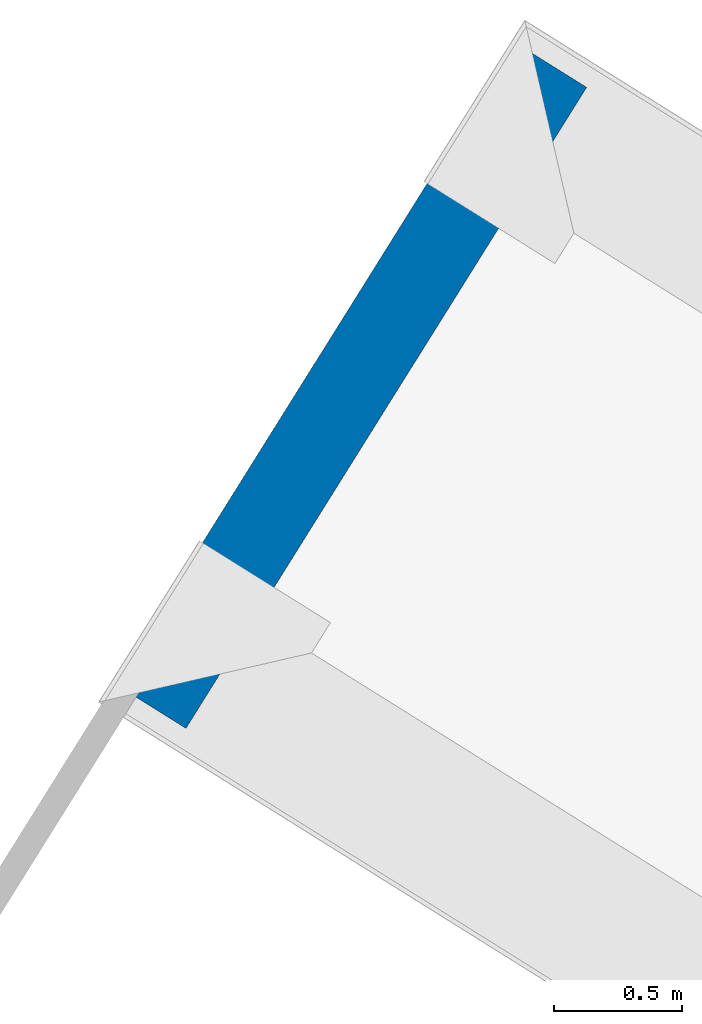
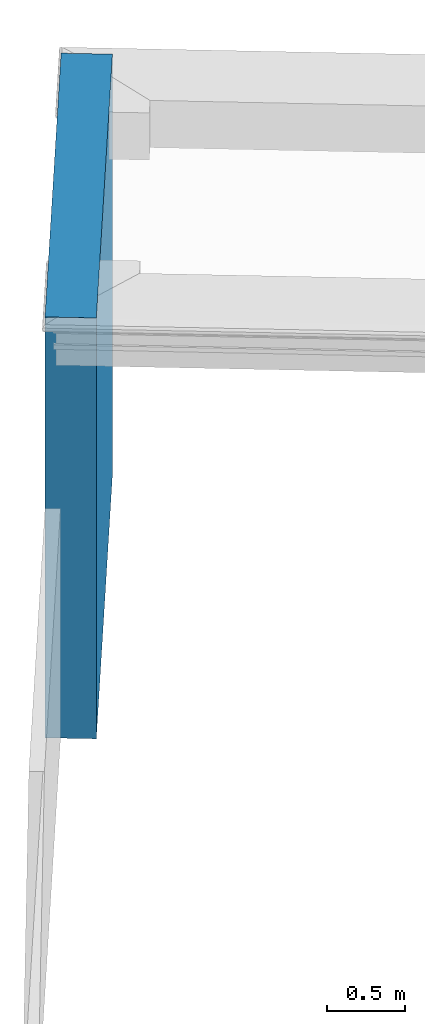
# One storey, part 4 of 5: 1 wall.
"""IFC4 building model written with IfcOpenShell, lengths in metres."""

import ifcopenshell
import ifcopenshell.guid

model = None  # the IFC model being written
_history = None  # IfcOwnerHistory: only IFC2X3 demands one
_inside = {}  # id of a spatial element -> (the spatial element, [elements in it])
_under = {}  # id of a project, library or spatial element -> (it, [spatial elements below it])
_declared = {}  # id of a project -> (the project, [libraries it declares])
_typed = {}  # id of a type object -> (the type object, [elements of that type])
_made_of = {}  # id of a material, layer set ... -> (it, [elements and type objects made of it])


def new_model(schema):
    """Start an empty IFC model of exactly this schema.

    Asked for "IFC4X3", IfcOpenShell would pick the latest addendum, in which some entities
    have other attributes; the version numbers below select the first issue.
    IFC2X3 requires an IfcOwnerHistory on every rooted entity: one is made here for all.
    """
    global model, _history
    if schema == "IFC4X3":
        model = ifcopenshell.file(schema_version=(4, 3, 0, 0))
    else:
        model = ifcopenshell.file(schema=schema)
    _inside.clear()
    _under.clear()
    _declared.clear()
    _typed.clear()
    _made_of.clear()
    _history = None
    if model.schema == "IFC2X3":
        org = make("IfcOrganization", Name="unknown")
        user = make(
            "IfcPersonAndOrganization",
            ThePerson=make("IfcPerson", FamilyName="unknown"),
            TheOrganization=org,
        )
        app = make(
            "IfcApplication",
            ApplicationDeveloper=org,
            Version="unknown",
            ApplicationFullName="unknown",
            ApplicationIdentifier="unknown",
        )
        _history = make(
            "IfcOwnerHistory",
            OwningUser=user,
            OwningApplication=app,
            ChangeAction="ADDED",
            CreationDate=0,
        )
    return model


def make(cls, **values):
    """One entity of the class cls with the attributes given. An attribute that is None is left unset."""
    return model.create_entity(
        cls, **{name: value for name, value in values.items() if value is not None}
    )


def rooted(cls, **values):
    """An entity with a GlobalId (a new one), such as an element, a storey or a relation."""
    return make(cls, GlobalId=ifcopenshell.guid.new(), OwnerHistory=_history, **values)


def si_unit(unit_type, name, prefix=None):
    """IfcSIUnit, for example si_unit("LENGTHUNIT", "METRE", prefix="MILLI")."""
    return make("IfcSIUnit", UnitType=unit_type, Prefix=prefix, Name=name)


def assignment(units):
    """IfcUnitAssignment: the units of a project."""
    return None if units is None else make("IfcUnitAssignment", Units=units)


def point(xyz):
    """IfcCartesianPoint."""
    return None if xyz is None else make("IfcCartesianPoint", Coordinates=xyz)


def direction(xyz):
    """IfcDirection."""
    return None if xyz is None else make("IfcDirection", DirectionRatios=xyz)


def frame(location, z_axis=None, x_axis=None):
    """IfcAxis2Placement3D, a coordinate frame: its origin and axes. An axis left out is left unset."""
    return make(
        "IfcAxis2Placement3D",
        Location=point(location),
        Axis=direction(z_axis),
        RefDirection=direction(x_axis),
    )


def origin_with_axes():
    """The frame at (0, 0, 0) with the z axis (0, 0, 1) and the x axis (1, 0, 0) written out."""
    return frame((0.0, 0.0, 0.0), z_axis=(0.0, 0.0, 1.0), x_axis=(1.0, 0.0, 0.0))


def place(relative_to, where):
    """IfcLocalPlacement: puts the frame where relative to a parent placement (None: the world)."""
    return make(
        "IfcLocalPlacement", PlacementRelTo=relative_to, RelativePlacement=where
    )


def context(
    kind, dimensions, precision=None, world=None, true_north=None, identifier=None
):
    """IfcGeometricRepresentationContext, for example the 3D "Model" context."""
    return make(
        "IfcGeometricRepresentationContext",
        ContextIdentifier=identifier,
        ContextType=kind,
        CoordinateSpaceDimension=dimensions,
        Precision=precision,
        WorldCoordinateSystem=world,
        TrueNorth=true_north,
    )


def subcontext(parent, identifier, kind, view, scale=None):
    """IfcGeometricRepresentationSubContext, for example "Body" below "Model"."""
    return make(
        "IfcGeometricRepresentationSubContext",
        ContextIdentifier=identifier,
        ContextType=kind,
        ParentContext=parent,
        TargetScale=scale,
        TargetView=view,
    )


def project(units=None, contexts=None):
    """IfcProject with its units and contexts."""
    return rooted(
        "IfcProject",
        Name="project",
        RepresentationContexts=contexts,
        UnitsInContext=assignment(units),
    )


def spatial(cls, under=None, at=None, **own):
    """A site, building, storey or space (cls), placed at a placement, below another one or the project."""
    s = rooted(cls, ObjectPlacement=at, **own)
    if under is not None:
        _under.setdefault(under.id(), (under, []))[1].append(s)
    return s


def polyline(points):
    """IfcPolyline through the points."""
    return make("IfcPolyline", Points=[point(p) for p in points])


def outline(outer, holes=None, kind="AREA"):
    """IfcArbitraryClosedProfileDef: a profile drawn as a closed curve; with holes, ...WithVoids."""
    if holes is None:
        return make("IfcArbitraryClosedProfileDef", ProfileType=kind, OuterCurve=outer)
    return make(
        "IfcArbitraryProfileDefWithVoids",
        ProfileType=kind,
        OuterCurve=outer,
        InnerCurves=holes,
    )


def extrude(swept, where, along, depth):
    """IfcExtrudedAreaSolid: the profile swept, set in the frame where, extruded along a direction by depth."""
    return make(
        "IfcExtrudedAreaSolid",
        SweptArea=swept,
        Position=where,
        ExtrudedDirection=direction(along),
        Depth=depth,
    )


def shape(context_of_items, identifier, shape_type, items):
    """IfcShapeRepresentation: the items that make up one representation, for example the "Body"."""
    return make(
        "IfcShapeRepresentation",
        ContextOfItems=context_of_items,
        RepresentationIdentifier=identifier,
        RepresentationType=shape_type,
        Items=items,
    )


def material(Name=None, Category=None):
    """IfcMaterial."""
    return make("IfcMaterial", Name=Name, Category=Category)


def layer(
    of_material, thickness, ventilated=None, Name=None, Category=None, Priority=None
):
    """IfcMaterialLayer: one layer of a wall or slab, of a material (None: an air gap)."""
    return make(
        "IfcMaterialLayer",
        Material=of_material,
        LayerThickness=thickness,
        IsVentilated=ventilated,
        Name=Name,
        Category=Category,
        Priority=Priority,
    )


def layer_set(layers, Name=None):
    """IfcMaterialLayerSet."""
    return make("IfcMaterialLayerSet", MaterialLayers=layers, LayerSetName=Name)


def layer_usage(for_layer_set, set_direction, sense, offset, extent=None):
    """IfcMaterialLayerSetUsage: how a layer set lies in its element."""
    return make(
        "IfcMaterialLayerSetUsage",
        ForLayerSet=for_layer_set,
        LayerSetDirection=set_direction,
        DirectionSense=sense,
        OffsetFromReferenceLine=offset,
        ReferenceExtent=extent,
    )


def made_of(thing, what):
    """Note that an element or type object is made of a material, layer set ...; save() writes the relation."""
    if what is not None:
        _made_of.setdefault(what.id(), (what, []))[1].append(thing)
    return thing


def type_object(cls, material=None, **own):
    """A type object (cls), such as IfcWallType, which elements share."""
    return made_of(rooted(cls, **own), material)


def element(
    cls,
    number,
    at=None,
    inside=None,
    cuts=None,
    type_object=None,
    material=None,
    context=None,
    identifier="Body",
    shape_type=None,
    held_by="IfcProductDefinitionShape",
    body=None,
    shapes=None,
    **own,
):
    """One element of the class cls, such as IfcWall. Its Tag is "e" and its number.

    at: its placement. inside: the storey or other place that contains it. cuts: it is an
    opening in that element (IfcRelVoidsElement). A single representation is given by context,
    identifier, shape_type and body (its items); several are given by shapes. held_by: the class
    of the entity that holds the representations. save() writes the other relations.
    """
    e = rooted(cls, Tag="e%d" % number, ObjectPlacement=at, **own)
    if body is not None:
        shapes = [shape(context, identifier, shape_type, body)]
    if shapes is not None:
        e.Representation = make(held_by, Representations=shapes)
    if inside is not None:
        _inside.setdefault(inside.id(), (inside, []))[1].append(e)
    if cuts is not None:
        rooted(
            "IfcRelVoidsElement", RelatingBuildingElement=cuts, RelatedOpeningElement=e
        )
    if type_object is not None:
        _typed.setdefault(type_object.id(), (type_object, []))[1].append(e)
    return made_of(e, material)


def aggregate(whole, parts):
    """IfcRelAggregates: a whole, such as a stair, and the parts it consists of."""
    return rooted("IfcRelAggregates", RelatingObject=whole, RelatedObjects=parts)


def save(model, path):
    """Write the relations noted so far, then the file.

    IfcRelAggregates (storeys below a building ...), IfcRelContainedInSpatialStructure (elements
    in a storey), IfcRelDefinesByType, IfcRelAssociatesMaterial and IfcRelDeclares: one each for
    every whole, place, type object, material and project.
    """
    for whole, parts in _under.values():
        aggregate(whole, parts)
    for where, things in _inside.values():
        rooted(
            "IfcRelContainedInSpatialStructure",
            RelatedElements=things,
            RelatingStructure=where,
        )
    for kind, things in _typed.values():
        rooted("IfcRelDefinesByType", RelatedObjects=things, RelatingType=kind)
    for what, things in _made_of.values():
        rooted("IfcRelAssociatesMaterial", RelatedObjects=things, RelatingMaterial=what)
    for by, libraries in _declared.values():
        rooted("IfcRelDeclares", RelatingContext=by, RelatedDefinitions=libraries)
    model.write(path)


model = new_model("IFC4")

# Units and contexts
model_context = context("Model", 3, world=origin_with_axes())
body_context = subcontext(model_context, "Body", "Model", "MODEL_VIEW")
ifc_project = project(units=[si_unit("PLANEANGLEUNIT", "RADIAN"), si_unit("MASSUNIT", "GRAM", prefix="KILO"), si_unit("FORCEUNIT", "NEWTON", prefix="KILO"), si_unit("LENGTHUNIT", "METRE"), si_unit("AREAUNIT", "SQUARE_METRE"), si_unit("VOLUMEUNIT", "CUBIC_METRE")], contexts=[model_context, model_context])

# Sites, building, storey
site_1_placement = place(None, origin_with_axes())
site_1 = spatial("IfcSite", under=ifc_project, at=site_1_placement, Name="Tamar")
site_2_placement = place(site_1_placement, origin_with_axes())
site_2 = spatial("IfcSite", under=site_1, at=site_2_placement, Name="Site plot-3", CompositionType="ELEMENT")
building_placement = place(None, origin_with_axes())
building = spatial("IfcBuilding", under=site_2, at=building_placement, Name="Building plot-3", CompositionType="ELEMENT")
storey_placement = place(None, frame((0.0, 0.0, 24.5), z_axis=(0.0, 0.0, 1.0), x_axis=(1.0, 0.0, 0.0)))
storey = spatial("IfcBuildingStorey", under=building, at=storey_placement, Name="plot-3 0", CompositionType="ELEMENT", Elevation=24.5)

# Wall
ifc_material = material(Name="Masonry")
ifc_layer = layer(ifc_material, 0.33, ventilated=False)
ifc_layer_set = layer_set([ifc_layer], Name="party_0.08_0.25")
ifc_layer_usage = layer_usage(ifc_layer_set, "AXIS2", "POSITIVE", -0.25)
wall_type = type_object("IfcWallType", Name="party_0.08_0.25", PredefinedType="SOLIDWALL", material=ifc_layer_set)
wall_placement = place(storey_placement, frame((214.979178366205, 289.781466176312, 0.0), z_axis=(0.0, 0.0, 1.0), x_axis=(-0.5300265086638, -0.847981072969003, 0.0)))
element("IfcWall", 1, at=wall_placement, inside=storey, type_object=wall_type, material=ifc_layer_usage, Name="party", context=body_context, shape_type="SweptSolid", body=[
    extrude(outline(polyline([(-0.250000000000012, 0.0799999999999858), (-0.250000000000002, -0.249999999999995), (2.70646401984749, -0.249999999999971), (2.70646401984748, 0.0800000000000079), (-0.250000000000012, 0.0799999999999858)])), origin_with_axes(), (0.0, 0.0, 1.0), 3.3),
])

save(model, "model.ifc")
